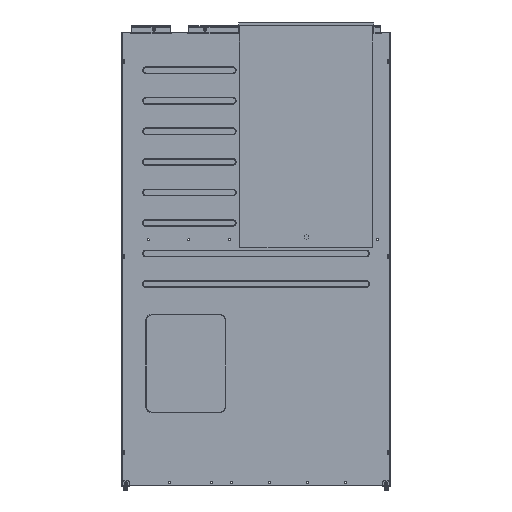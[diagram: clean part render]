
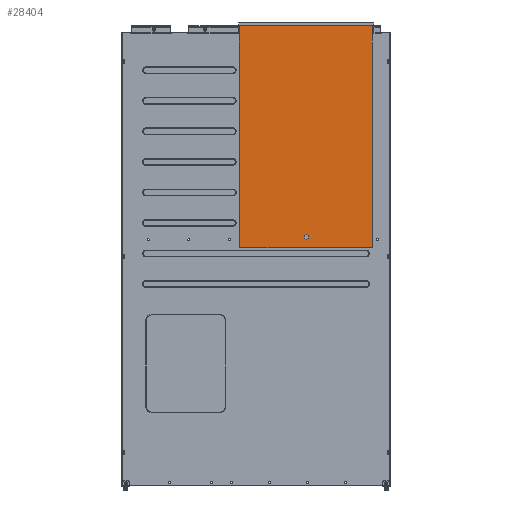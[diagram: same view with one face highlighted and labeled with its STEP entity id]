
A CAD part, front view. The second image highlights one B-rep face of the part: STEP entity #28404.
In plain terms, the highlighted planar face has unit normal (0, -1, 0).
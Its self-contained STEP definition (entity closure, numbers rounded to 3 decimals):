
#27249=DIRECTION('',(1.,0.,0.));
#27250=VECTOR('',#27249,216.6);
#27251=CARTESIAN_POINT('',(-26.6,0.,5.));
#27252=LINE('',#27251,#27250);
#27253=DIRECTION('',(-1.,0.,0.));
#27254=VECTOR('',#27253,216.6);
#27255=CARTESIAN_POINT('',(190.,0.,-363.3));
#27256=LINE('',#27255,#27254);
#27266=DIRECTION('',(0.,0.,1.));
#27267=VECTOR('',#27266,368.3);
#27268=CARTESIAN_POINT('',(-26.6,0.,-363.3));
#27269=LINE('',#27268,#27267);
#27374=DIRECTION('',(0.,0.,-1.));
#27375=VECTOR('',#27374,368.3);
#27376=CARTESIAN_POINT('',(190.,0.,5.));
#27377=LINE('',#27376,#27375);
#28153=CARTESIAN_POINT('',(190.,0.,-363.3));
#28154=VERTEX_POINT('',#28153);
#28155=CARTESIAN_POINT('',(190.,0.,5.));
#28156=VERTEX_POINT('',#28155);
#28169=CARTESIAN_POINT('',(-26.6,0.,5.));
#28170=VERTEX_POINT('',#28169);
#28171=CARTESIAN_POINT('',(-26.6,0.,-363.3));
#28172=VERTEX_POINT('',#28171);
#28389=CARTESIAN_POINT('',(0.,0.,0.));
#28390=DIRECTION('',(0.,1.,0.));
#28391=DIRECTION('',(1.,0.,0.));
#28392=AXIS2_PLACEMENT_3D('',#28389,#28390,#28391);
#28393=PLANE('',#28392);
#28395=ORIENTED_EDGE('',*,*,#28394,.T.);
#28397=ORIENTED_EDGE('',*,*,#28396,.T.);
#28399=ORIENTED_EDGE('',*,*,#28398,.T.);
#28401=ORIENTED_EDGE('',*,*,#28400,.T.);
#28402=EDGE_LOOP('',(#28395,#28397,#28399,#28401));
#28403=FACE_OUTER_BOUND('',#28402,.F.);
#28394=EDGE_CURVE('',#28172,#28170,#27269,.T.);
#28396=EDGE_CURVE('',#28170,#28156,#27252,.T.);
#28398=EDGE_CURVE('',#28156,#28154,#27377,.T.);
#28400=EDGE_CURVE('',#28154,#28172,#27256,.T.);
#28404=ADVANCED_FACE('',(#28403),#28393,.F.);
